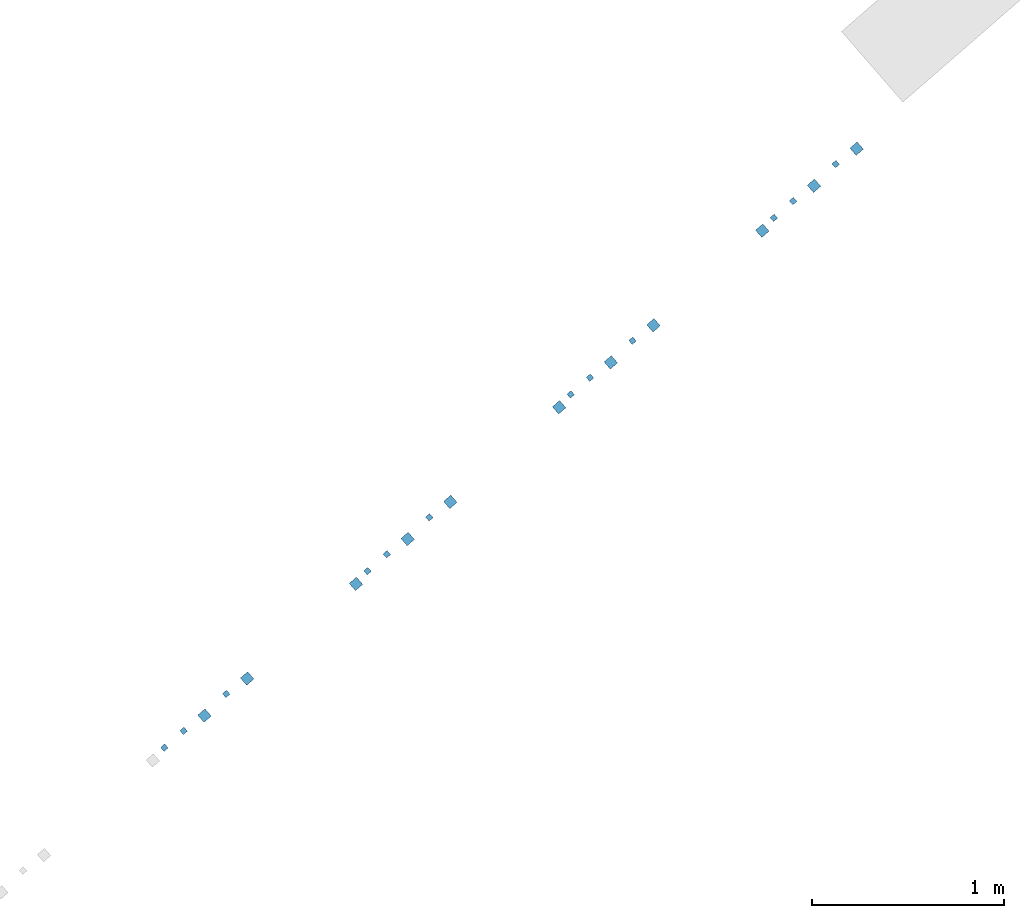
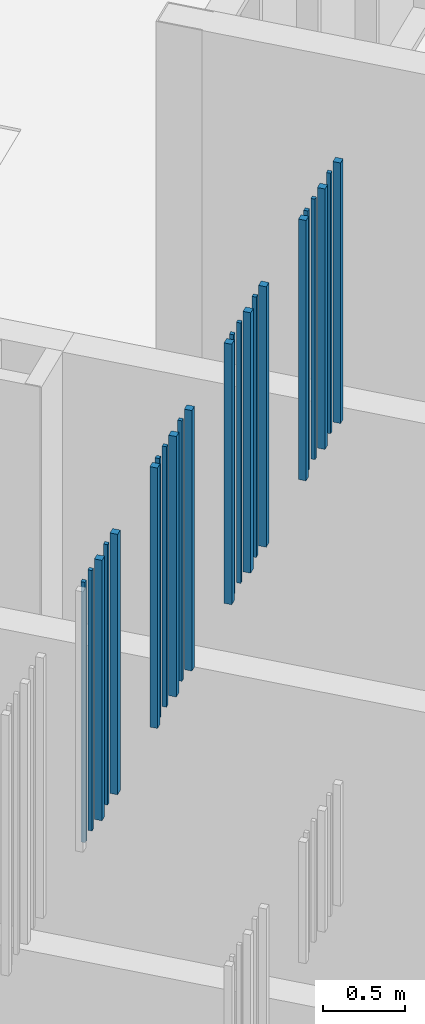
# One storey, part 30 of 124: 23 walls.
"""IFC2X3 building model written with IfcOpenShell, lengths in millimetres."""

from ifc_helpers import new_model, entity, si_unit, converted_unit, derived_unit, money_unit, direction, frame, origin_with_axes, place, context, subcontext, project, spatial, faceted_brep, material, type_object, element, save


model = new_model("IFC2X3")

# Units and contexts
model_context = context("Model", 3, precision=1e-05, world=origin_with_axes(), true_north=direction((0.0, 1.0)))
body_context = subcontext(model_context, "Body", "Model", "MODEL_VIEW")
ifc_project = project(units=[si_unit("LENGTHUNIT", "METRE", prefix="MILLI"), si_unit("AREAUNIT", "SQUARE_METRE"), si_unit("VOLUMEUNIT", "CUBIC_METRE"), converted_unit("PLANEANGLEUNIT", "DEGREE", entity("IfcPlaneAngleMeasure", 0.0174532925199), si_unit("PLANEANGLEUNIT", "RADIAN"), dimensions=[0, 0, 0, 0, 0, 0, 0]), si_unit("SOLIDANGLEUNIT", "STERADIAN"), money_unit("EUR"), converted_unit("TIMEUNIT", "Year", entity("IfcTimeMeasure", 31556926.0), si_unit("TIMEUNIT", "SECOND"), dimensions=[0, 0, 1, 0, 0, 0, 0]), si_unit("MASSUNIT", "GRAM", prefix="KILO"), si_unit("THERMODYNAMICTEMPERATUREUNIT", "DEGREE_CELSIUS"), si_unit("LUMINOUSINTENSITYUNIT", "LUMEN"), si_unit("ENERGYUNIT", "JOULE", prefix="MEGA"), derived_unit("THERMALCONDUCTANCEUNIT", [(si_unit("POWERUNIT", "WATT"), 1), (si_unit("LENGTHUNIT", "METRE"), -1), (si_unit("THERMODYNAMICTEMPERATUREUNIT", "KELVIN"), -1)]), derived_unit("SPECIFICHEATCAPACITYUNIT", [(si_unit("ENERGYUNIT", "JOULE"), 1), (si_unit("MASSUNIT", "GRAM", prefix="KILO"), -1), (si_unit("THERMODYNAMICTEMPERATUREUNIT", "KELVIN"), -1)]), derived_unit("MASSDENSITYUNIT", [(si_unit("MASSUNIT", "GRAM", prefix="KILO"), 1), (si_unit("VOLUMEUNIT", "CUBIC_METRE"), -1)])], contexts=[model_context])

# Site, building, storey
site_placement = place(None, origin_with_axes())
site = spatial("IfcSite", under=ifc_project, at=site_placement, Name="Site", CompositionType="ELEMENT")
building_placement = place(site_placement, origin_with_axes())
building = spatial("IfcBuilding", under=site, at=building_placement, Name="Building", CompositionType="ELEMENT")
storey_placement = place(building_placement, frame((0.0, 0.0, -1615.0), z_axis=(0.0, 0.0, 1.0), x_axis=(1.0, 0.0, 0.0)))
storey = spatial("IfcBuildingStorey", under=building, at=storey_placement, Name="0  korrus", CompositionType="ELEMENT", Elevation=-1615.0)

# Walls
ifc_material = material(Name="Site specified")
wall_type = type_object("IfcWallType", Name="Puitfassaadi ribistik", PredefinedType="NOTDEFINED")
wall_1_placement = place(storey_placement, frame((148569.715349, 73780.2998475, 9530.0), z_axis=(0.0, 0.0, 1.0), x_axis=(-0.754709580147, -0.656059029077, 0.0)))
element("IfcWall", 1, at=wall_1_placement, inside=storey, type_object=wall_type, material=ifc_material, Name="Site specified", context=body_context, shape_type="Brep", body=[
    faceted_brep([(25.0, 25.0, 1950.0), (25.0, 25.0, 0.0), (-25.0, 25.0, 0.0), (-25.0, 25.0, 1950.0), (25.0, -25.0, 1950.0), (25.0, -25.0, 0.0), (-25.0, -25.0, 0.0), (-25.0, -25.0, 1950.0)], [[[0, 1, 2, 3]], [[4, 5, 1, 0]], [[2, 1, 5, 6]], [[3, 2, 6, 7]], [[4, 0, 3, 7]], [[7, 6, 5, 4]]]),
])
for number, where, z_axis, x_axis, name in (
    (2, (148460.611027, 73700.0320501, 9530.0), (0.0, 0.0, 1.0), (-0.754709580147, -0.656059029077, 0.0), "Site specified"),
    (3, (148139.104769, 73420.5509232, 9530.0), (0.0, 0.0, 1.0), (-0.754709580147, -0.656059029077, 0.0), "Site specified"),
):
    element("IfcWall", number, at=place(storey_placement, frame(where, z_axis=z_axis, x_axis=x_axis)), inside=storey, type_object=wall_type, material=ifc_material, Name=name, context=body_context, shape_type="Brep", body=[
        faceted_brep([(14.0, 14.0, 1950.0), (14.0, 14.0, 0.0), (-14.0, 14.0, 0.0), (-14.0, 14.0, 1950.0), (14.0, -14.0, 1950.0), (14.0, -14.0, 0.0), (-14.0, -14.0, 0.0), (-14.0, -14.0, 1950.0)], [[[0, 1, 2, 3]], [[4, 5, 1, 0]], [[2, 1, 5, 6]], [[3, 2, 6, 7]], [[4, 0, 3, 7]], [[7, 6, 5, 4]]]),
    ])
wall_2_placement = place(storey_placement, frame((148079.149872, 73353.8577843, 9530.0), z_axis=(0.0, 0.0, 1.0), x_axis=(-0.754709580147, -0.656059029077, 0.0)))
element("IfcWall", 4, at=wall_2_placement, inside=storey, type_object=wall_type, material=ifc_material, Name="Site specified", context=body_context, shape_type="Brep", body=[
    faceted_brep([(25.0, 25.0, 1950.0), (25.0, 25.0, 0.0), (-25.0, 25.0, 0.0), (-25.0, 25.0, 1950.0), (25.0, -25.0, 1950.0), (25.0, -25.0, 0.0), (-25.0, -25.0, 0.0), (-25.0, -25.0, 1950.0)], [[[0, 1, 2, 3]], [[4, 5, 1, 0]], [[2, 1, 5, 6]], [[3, 2, 6, 7]], [[4, 0, 3, 7]], [[7, 6, 5, 4]]]),
])
wall_3_placement = place(storey_placement, frame((148239.481142, 73507.8067735, 9530.0), z_axis=(0.0, 0.0, 1.0), x_axis=(-0.754709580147, -0.656059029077, 0.0)))
element("IfcWall", 5, at=wall_3_placement, inside=storey, type_object=wall_type, material=ifc_material, Name="Site specified", context=body_context, shape_type="Brep", body=[
    faceted_brep([(14.0, 14.0, 1950.0), (14.0, 14.0, 0.0), (-14.0, 14.0, 0.0), (-14.0, 14.0, 1950.0), (14.0, -14.0, 1950.0), (14.0, -14.0, 0.0), (-14.0, -14.0, 0.0), (-14.0, -14.0, 1950.0)], [[[0, 1, 2, 3]], [[4, 5, 1, 0]], [[2, 1, 5, 6]], [[3, 2, 6, 7]], [[4, 0, 3, 7]], [[7, 6, 5, 4]]]),
])
wall_4_placement = place(storey_placement, frame((146456.528525, 71943.3345662, 9530.0), z_axis=(0.0, 0.0, 1.0), x_axis=(-0.754709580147, -0.656059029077, 0.0)))
element("IfcWall", 6, at=wall_4_placement, inside=storey, type_object=wall_type, material=ifc_material, Name="Site specified", context=body_context, shape_type="Brep", body=[
    faceted_brep([(25.0, 25.0, 1950.0), (25.0, 25.0, 0.0), (-25.0, 25.0, 0.0), (-25.0, 25.0, 1950.0), (25.0, -25.0, 1950.0), (25.0, -25.0, 0.0), (-25.0, -25.0, 0.0), (-25.0, -25.0, 1950.0)], [[[0, 1, 2, 3]], [[4, 5, 1, 0]], [[2, 1, 5, 6]], [[3, 2, 6, 7]], [[4, 0, 3, 7]], [[7, 6, 5, 4]]]),
])
for number, where, z_axis, x_axis, name in (
    (7, (146347.424203, 71863.0667687, 9530.0), (0.0, 0.0, 1.0), (-0.754709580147, -0.656059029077, 0.0), "Site specified"),
    (8, (146025.917944, 71583.5856419, 9530.0), (0.0, 0.0, 1.0), (-0.754709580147, -0.656059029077, 0.0), "Site specified"),
):
    element("IfcWall", number, at=place(storey_placement, frame(where, z_axis=z_axis, x_axis=x_axis)), inside=storey, type_object=wall_type, material=ifc_material, Name=name, context=body_context, shape_type="Brep", body=[
        faceted_brep([(14.0, 14.0, 1950.0), (14.0, 14.0, 0.0), (-14.0, 14.0, 0.0), (-14.0, 14.0, 1950.0), (14.0, -14.0, 1950.0), (14.0, -14.0, 0.0), (-14.0, -14.0, 0.0), (-14.0, -14.0, 1950.0)], [[[0, 1, 2, 3]], [[4, 5, 1, 0]], [[2, 1, 5, 6]], [[3, 2, 6, 7]], [[4, 0, 3, 7]], [[7, 6, 5, 4]]]),
    ])
wall_5_placement = place(storey_placement, frame((145965.963048, 71516.8925029, 9530.0), z_axis=(0.0, 0.0, 1.0), x_axis=(-0.754709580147, -0.656059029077, 0.0)))
element("IfcWall", 9, at=wall_5_placement, inside=storey, type_object=wall_type, material=ifc_material, Name="Site specified", context=body_context, shape_type="Brep", body=[
    faceted_brep([(25.0, 25.0, 1950.0), (25.0, 25.0, 0.0), (-25.0, 25.0, 0.0), (-25.0, 25.0, 1950.0), (25.0, -25.0, 1950.0), (25.0, -25.0, 0.0), (-25.0, -25.0, 0.0), (-25.0, -25.0, 1950.0)], [[[0, 1, 2, 3]], [[4, 5, 1, 0]], [[2, 1, 5, 6]], [[3, 2, 6, 7]], [[4, 0, 3, 7]], [[7, 6, 5, 4]]]),
])
for number, where, z_axis, x_axis, name in (
    (10, (146126.294318, 71670.8414922, 9530.0), (0.0, 0.0, 1.0), (-0.754709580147, -0.656059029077, 0.0), "Site specified"),
    (11, (145069.700905, 70752.3588515, 9530.0), (0.0, 0.0, 1.0), (-0.754709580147, -0.656059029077, 0.0), "Site specified"),
):
    element("IfcWall", number, at=place(storey_placement, frame(where, z_axis=z_axis, x_axis=x_axis)), inside=storey, type_object=wall_type, material=ifc_material, Name=name, context=body_context, shape_type="Brep", body=[
        faceted_brep([(14.0, 14.0, 1950.0), (14.0, 14.0, 0.0), (-14.0, 14.0, 0.0), (-14.0, 14.0, 1950.0), (14.0, -14.0, 1950.0), (14.0, -14.0, 0.0), (-14.0, -14.0, 0.0), (-14.0, -14.0, 1950.0)], [[[0, 1, 2, 3]], [[4, 5, 1, 0]], [[2, 1, 5, 6]], [[3, 2, 6, 7]], [[4, 0, 3, 7]], [[7, 6, 5, 4]]]),
    ])
for number, where, z_axis, x_axis, name in (
    (12, (145178.050498, 70831.9705724, 9530.0), (0.0, 0.0, 1.0), (-0.754709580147, -0.656059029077, 0.0), "Site specified"),
    (13, (145399.935113, 71024.8519255, 9530.0), (0.0, 0.0, 1.0), (-0.754709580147, -0.656059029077, 0.0), "Site specified"),
):
    element("IfcWall", number, at=place(storey_placement, frame(where, z_axis=z_axis, x_axis=x_axis)), inside=storey, type_object=wall_type, material=ifc_material, Name=name, context=body_context, shape_type="Brep", body=[
        faceted_brep([(25.0, 25.0, 1950.0), (25.0, 25.0, 0.0), (-25.0, 25.0, 0.0), (-25.0, 25.0, 1950.0), (25.0, -25.0, 1950.0), (25.0, -25.0, 0.0), (-25.0, -25.0, 0.0), (-25.0, -25.0, 1950.0)], [[[0, 1, 2, 3]], [[4, 5, 1, 0]], [[2, 1, 5, 6]], [[3, 2, 6, 7]], [[4, 0, 3, 7]], [[7, 6, 5, 4]]]),
    ])
for number, where, z_axis, x_axis, name in (
    (14, (144969.324532, 70665.1030012, 9530.0), (0.0, 0.0, 1.0), (-0.754709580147, -0.656059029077, 0.0), "Site specified"),
    (15, (145290.830791, 70944.5841281, 9530.0), (0.0, 0.0, 1.0), (-0.754709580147, -0.656059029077, 0.0), "Site specified"),
):
    element("IfcWall", number, at=place(storey_placement, frame(where, z_axis=z_axis, x_axis=x_axis)), inside=storey, type_object=wall_type, material=ifc_material, Name=name, context=body_context, shape_type="Brep", body=[
        faceted_brep([(14.0, 14.0, 1950.0), (14.0, 14.0, 0.0), (-14.0, 14.0, 0.0), (-14.0, 14.0, 1950.0), (14.0, -14.0, 1950.0), (14.0, -14.0, 0.0), (-14.0, -14.0, 0.0), (-14.0, -14.0, 1950.0)], [[[0, 1, 2, 3]], [[4, 5, 1, 0]], [[2, 1, 5, 6]], [[3, 2, 6, 7]], [[4, 0, 3, 7]], [[7, 6, 5, 4]]]),
    ])
for number, where, z_axis, x_axis, name in (
    (16, (147513.121937, 72861.8172068, 9530.0), (0.0, 0.0, 1.0), (-0.754709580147, -0.656059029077, 0.0), "Site specified"),
    (17, (147291.237322, 72668.9358537, 9530.0), (0.0, 0.0, 1.0), (-0.754709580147, -0.656059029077, 0.0), "Site specified"),
):
    element("IfcWall", number, at=place(storey_placement, frame(where, z_axis=z_axis, x_axis=x_axis)), inside=storey, type_object=wall_type, material=ifc_material, Name=name, context=body_context, shape_type="Brep", body=[
        faceted_brep([(25.0, 25.0, 1950.0), (25.0, 25.0, 0.0), (-25.0, 25.0, 0.0), (-25.0, 25.0, 1950.0), (25.0, -25.0, 1950.0), (25.0, -25.0, 0.0), (-25.0, -25.0, 0.0), (-25.0, -25.0, 1950.0)], [[[0, 1, 2, 3]], [[4, 5, 1, 0]], [[2, 1, 5, 6]], [[3, 2, 6, 7]], [[4, 0, 3, 7]], [[7, 6, 5, 4]]]),
    ])
wall_6_placement = place(storey_placement, frame((147404.017615, 72781.5494094, 9530.0), z_axis=(0.0, 0.0, 1.0), x_axis=(-0.754709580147, -0.656059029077, 0.0)))
element("IfcWall", 18, at=wall_6_placement, inside=storey, type_object=wall_type, material=ifc_material, Name="Site specified", context=body_context, shape_type="Brep", body=[
    faceted_brep([(14.0, 14.0, 1950.0), (14.0, 14.0, 0.0), (-14.0, 14.0, 0.0), (-14.0, 14.0, 1950.0), (14.0, -14.0, 1950.0), (14.0, -14.0, 0.0), (-14.0, -14.0, 0.0), (-14.0, -14.0, 1950.0)], [[[0, 1, 2, 3]], [[4, 5, 1, 0]], [[2, 1, 5, 6]], [[3, 2, 6, 7]], [[4, 0, 3, 7]], [[7, 6, 5, 4]]]),
])
wall_7_placement = place(storey_placement, frame((147022.55646, 72435.3751436, 9530.0), z_axis=(0.0, 0.0, 1.0), x_axis=(-0.754709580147, -0.656059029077, 0.0)))
element("IfcWall", 19, at=wall_7_placement, inside=storey, type_object=wall_type, material=ifc_material, Name="Site specified", context=body_context, shape_type="Brep", body=[
    faceted_brep([(25.0, 25.0, 1950.0), (25.0, 25.0, 0.0), (-25.0, 25.0, 0.0), (-25.0, 25.0, 1950.0), (25.0, -25.0, 1950.0), (25.0, -25.0, 0.0), (-25.0, -25.0, 0.0), (-25.0, -25.0, 1950.0)], [[[0, 1, 2, 3]], [[4, 5, 1, 0]], [[2, 1, 5, 6]], [[3, 2, 6, 7]], [[4, 0, 3, 7]], [[7, 6, 5, 4]]]),
])
for number, where, z_axis, x_axis, name in (
    (20, (147182.88773, 72589.3241329, 9530.0), (0.0, 0.0, 1.0), (-0.754709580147, -0.656059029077, 0.0), "Site specified"),
    (21, (147082.511356, 72502.0682825, 9530.0), (0.0, 0.0, 1.0), (-0.754709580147, -0.656059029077, 0.0), "Site specified"),
):
    element("IfcWall", number, at=place(storey_placement, frame(where, z_axis=z_axis, x_axis=x_axis)), inside=storey, type_object=wall_type, material=ifc_material, Name=name, context=body_context, shape_type="Brep", body=[
        faceted_brep([(14.0, 14.0, 1950.0), (14.0, 14.0, 0.0), (-14.0, 14.0, 0.0), (-14.0, 14.0, 1950.0), (14.0, -14.0, 1950.0), (14.0, -14.0, 0.0), (-14.0, -14.0, 0.0), (-14.0, -14.0, 1950.0)], [[[0, 1, 2, 3]], [[4, 5, 1, 0]], [[2, 1, 5, 6]], [[3, 2, 6, 7]], [[4, 0, 3, 7]], [[7, 6, 5, 4]]]),
    ])
for number, where, z_axis, x_axis, name in (
    (22, (148347.830735, 73587.4184944, 9530.0), (0.0, 0.0, 1.0), (-0.754709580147, -0.656059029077, 0.0), "Site specified"),
    (23, (146234.64391, 71750.4532131, 9530.0), (0.0, 0.0, 1.0), (-0.754709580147, -0.656059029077, 0.0), "Site specified"),
):
    element("IfcWall", number, at=place(storey_placement, frame(where, z_axis=z_axis, x_axis=x_axis)), inside=storey, type_object=wall_type, material=ifc_material, Name=name, context=body_context, shape_type="Brep", body=[
        faceted_brep([(25.0, 25.0, 1950.0), (25.0, 25.0, 0.0), (-25.0, 25.0, 0.0), (-25.0, 25.0, 1950.0), (25.0, -25.0, 1950.0), (25.0, -25.0, 0.0), (-25.0, -25.0, 0.0), (-25.0, -25.0, 1950.0)], [[[0, 1, 2, 3]], [[4, 5, 1, 0]], [[2, 1, 5, 6]], [[3, 2, 6, 7]], [[4, 0, 3, 7]], [[7, 6, 5, 4]]]),
    ])

save(model, "model.ifc")
